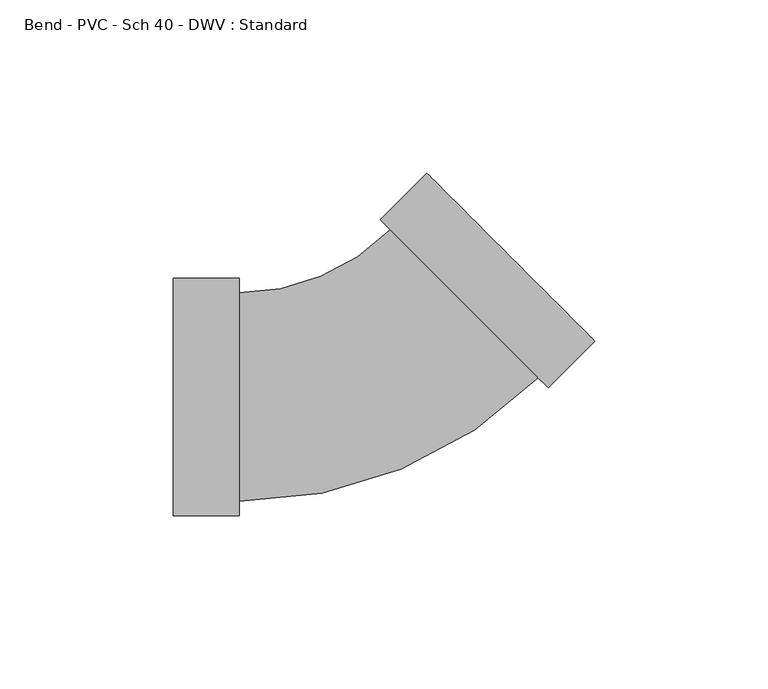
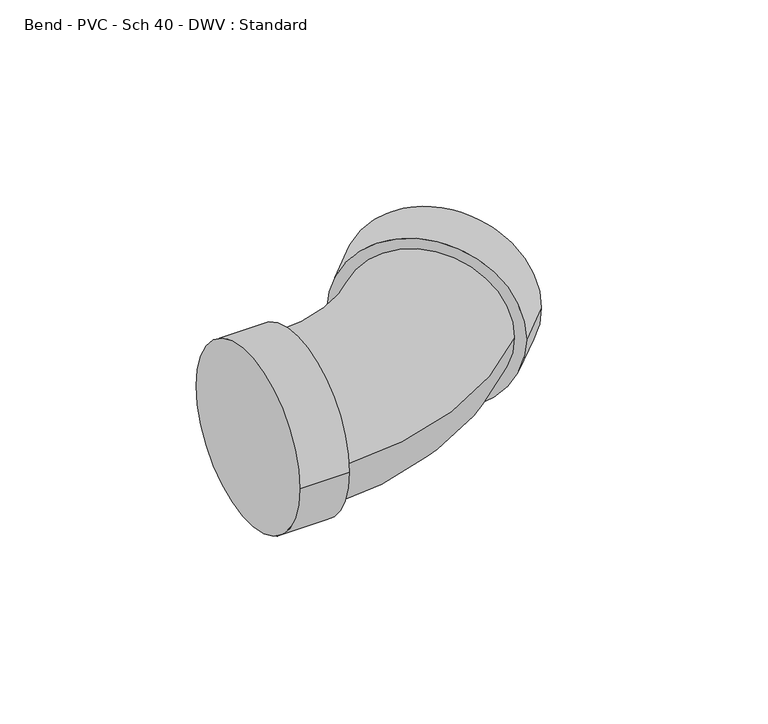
"""IFC4 building model written with IfcOpenShell, lengths in millimetres: pipe fitting geometry, Bend - PVC - Sch 40 - DWV : Standard."""

import ifcopenshell
import ifcopenshell.guid

model = None  # the IFC model being written
_history = None  # IfcOwnerHistory: only IFC2X3 demands one
_inside = {}  # id of a spatial element -> (the spatial element, [elements in it])
_under = {}  # id of a project, library or spatial element -> (it, [spatial elements below it])
_declared = {}  # id of a project -> (the project, [libraries it declares])
_typed = {}  # id of a type object -> (the type object, [elements of that type])
_made_of = {}  # id of a material, layer set ... -> (it, [elements and type objects made of it])


def new_model(schema):
    """Start an empty IFC model of exactly this schema.

    Asked for "IFC4X3", IfcOpenShell would pick the latest addendum, in which some entities
    have other attributes; the version numbers below select the first issue.
    IFC2X3 requires an IfcOwnerHistory on every rooted entity: one is made here for all.
    """
    global model, _history
    if schema == "IFC4X3":
        model = ifcopenshell.file(schema_version=(4, 3, 0, 0))
    else:
        model = ifcopenshell.file(schema=schema)
    _inside.clear()
    _under.clear()
    _declared.clear()
    _typed.clear()
    _made_of.clear()
    _history = None
    if model.schema == "IFC2X3":
        org = make("IfcOrganization", Name="unknown")
        user = make(
            "IfcPersonAndOrganization",
            ThePerson=make("IfcPerson", FamilyName="unknown"),
            TheOrganization=org,
        )
        app = make(
            "IfcApplication",
            ApplicationDeveloper=org,
            Version="unknown",
            ApplicationFullName="unknown",
            ApplicationIdentifier="unknown",
        )
        _history = make(
            "IfcOwnerHistory",
            OwningUser=user,
            OwningApplication=app,
            ChangeAction="ADDED",
            CreationDate=0,
        )
    return model


def make(cls, **values):
    """One entity of the class cls with the attributes given. An attribute that is None is left unset."""
    return model.create_entity(
        cls, **{name: value for name, value in values.items() if value is not None}
    )


def rooted(cls, **values):
    """An entity with a GlobalId (a new one), such as an element, a storey or a relation."""
    return make(cls, GlobalId=ifcopenshell.guid.new(), OwnerHistory=_history, **values)


def si_unit(unit_type, name, prefix=None):
    """IfcSIUnit, for example si_unit("LENGTHUNIT", "METRE", prefix="MILLI")."""
    return make("IfcSIUnit", UnitType=unit_type, Prefix=prefix, Name=name)


def assignment(units):
    """IfcUnitAssignment: the units of a project."""
    return None if units is None else make("IfcUnitAssignment", Units=units)


def point(xyz):
    """IfcCartesianPoint."""
    return None if xyz is None else make("IfcCartesianPoint", Coordinates=xyz)


def direction(xyz):
    """IfcDirection."""
    return None if xyz is None else make("IfcDirection", DirectionRatios=xyz)


def frame(location, z_axis=None, x_axis=None):
    """IfcAxis2Placement3D, a coordinate frame: its origin and axes. An axis left out is left unset."""
    return make(
        "IfcAxis2Placement3D",
        Location=point(location),
        Axis=direction(z_axis),
        RefDirection=direction(x_axis),
    )


def origin():
    """The frame at (0, 0, 0) with its axes left unset."""
    return frame((0.0, 0.0, 0.0))


def place(relative_to, where):
    """IfcLocalPlacement: puts the frame where relative to a parent placement (None: the world)."""
    return make(
        "IfcLocalPlacement", PlacementRelTo=relative_to, RelativePlacement=where
    )


def context(
    kind, dimensions, precision=None, world=None, true_north=None, identifier=None
):
    """IfcGeometricRepresentationContext, for example the 3D "Model" context."""
    return make(
        "IfcGeometricRepresentationContext",
        ContextIdentifier=identifier,
        ContextType=kind,
        CoordinateSpaceDimension=dimensions,
        Precision=precision,
        WorldCoordinateSystem=world,
        TrueNorth=true_north,
    )


def project(units=None, contexts=None):
    """IfcProject with its units and contexts."""
    return rooted(
        "IfcProject",
        Name="project",
        RepresentationContexts=contexts,
        UnitsInContext=assignment(units),
    )


def spatial(cls, under=None, at=None, **own):
    """A site, building, storey or space (cls), placed at a placement, below another one or the project."""
    s = rooted(cls, ObjectPlacement=at, **own)
    if under is not None:
        _under.setdefault(under.id(), (under, []))[1].append(s)
    return s


def circle_curve(where, radius):
    """IfcCircle in the frame where."""
    return make("IfcCircle", Position=where, Radius=radius)


def ellipse_curve(where, semi_axis1, semi_axis2):
    """IfcEllipse in the frame where."""
    return make(
        "IfcEllipse", Position=where, SemiAxis1=semi_axis1, SemiAxis2=semi_axis2
    )


def trimmed(basis, trim1, trim2, sense, master):
    """IfcTrimmedCurve: the piece of a basis curve between two trims."""
    return make(
        "IfcTrimmedCurve",
        BasisCurve=basis,
        Trim1=trim1,
        Trim2=trim2,
        SenseAgreement=sense,
        MasterRepresentation=master,
    )


def shape(context_of_items, identifier, shape_type, items):
    """IfcShapeRepresentation: the items that make up one representation, for example the "Body"."""
    return make(
        "IfcShapeRepresentation",
        ContextOfItems=context_of_items,
        RepresentationIdentifier=identifier,
        RepresentationType=shape_type,
        Items=items,
    )


def source(mapping_origin, context_of_items, identifier, shape_type, items):
    """IfcRepresentationMap: a shape defined once, which mapped items show again and again."""
    return make(
        "IfcRepresentationMap",
        MappingOrigin=mapping_origin,
        MappedRepresentation=shape(context_of_items, identifier, shape_type, items),
    )


def transform(
    local_origin,
    x_axis=None,
    y_axis=None,
    z_axis=None,
    scale=None,
    scale2=None,
    scale3=None,
    uniform=True,
):
    """IfcCartesianTransformationOperator3D, or its non-uniform kind. x_axis, y_axis, z_axis: its Axis1, 2, 3."""
    if uniform:
        return make(
            "IfcCartesianTransformationOperator3D",
            Axis1=direction(x_axis),
            Axis2=direction(y_axis),
            LocalOrigin=point(local_origin),
            Scale=scale,
            Axis3=direction(z_axis),
        )
    return make(
        "IfcCartesianTransformationOperator3DnonUniform",
        Axis1=direction(x_axis),
        Axis2=direction(y_axis),
        LocalOrigin=point(local_origin),
        Scale=scale,
        Axis3=direction(z_axis),
        Scale2=scale2,
        Scale3=scale3,
    )


def mapped(mapping_source, mapping_target):
    """IfcMappedItem: shows the shape of a source again, moved by a transform."""
    return make(
        "IfcMappedItem", MappingSource=mapping_source, MappingTarget=mapping_target
    )


def made_of(thing, what):
    """Note that an element or type object is made of a material, layer set ...; save() writes the relation."""
    if what is not None:
        _made_of.setdefault(what.id(), (what, []))[1].append(thing)
    return thing


def element(
    cls,
    number,
    at=None,
    inside=None,
    cuts=None,
    type_object=None,
    material=None,
    context=None,
    identifier="Body",
    shape_type=None,
    held_by="IfcProductDefinitionShape",
    body=None,
    shapes=None,
    **own,
):
    """One element of the class cls, such as IfcWall. Its Tag is "e" and its number.

    at: its placement. inside: the storey or other place that contains it. cuts: it is an
    opening in that element (IfcRelVoidsElement). A single representation is given by context,
    identifier, shape_type and body (its items); several are given by shapes. held_by: the class
    of the entity that holds the representations. save() writes the other relations.
    """
    e = rooted(cls, Tag="e%d" % number, ObjectPlacement=at, **own)
    if body is not None:
        shapes = [shape(context, identifier, shape_type, body)]
    if shapes is not None:
        e.Representation = make(held_by, Representations=shapes)
    if inside is not None:
        _inside.setdefault(inside.id(), (inside, []))[1].append(e)
    if cuts is not None:
        rooted(
            "IfcRelVoidsElement", RelatingBuildingElement=cuts, RelatedOpeningElement=e
        )
    if type_object is not None:
        _typed.setdefault(type_object.id(), (type_object, []))[1].append(e)
    return made_of(e, material)


def aggregate(whole, parts):
    """IfcRelAggregates: a whole, such as a stair, and the parts it consists of."""
    return rooted("IfcRelAggregates", RelatingObject=whole, RelatedObjects=parts)


def save(model, path):
    """Write the relations noted so far, then the file.

    IfcRelAggregates (storeys below a building ...), IfcRelContainedInSpatialStructure (elements
    in a storey), IfcRelDefinesByType, IfcRelAssociatesMaterial and IfcRelDeclares: one each for
    every whole, place, type object, material and project.
    """
    for whole, parts in _under.values():
        aggregate(whole, parts)
    for where, things in _inside.values():
        rooted(
            "IfcRelContainedInSpatialStructure",
            RelatedElements=things,
            RelatingStructure=where,
        )
    for kind, things in _typed.values():
        rooted("IfcRelDefinesByType", RelatedObjects=things, RelatingType=kind)
    for what, things in _made_of.values():
        rooted("IfcRelAssociatesMaterial", RelatedObjects=things, RelatingMaterial=what)
    for by, libraries in _declared.values():
        rooted("IfcRelDeclares", RelatingContext=by, RelatedDefinitions=libraries)
    model.write(path)


def plane_surface(at):
    """IfcPlane: the flat surface through the origin of the frame at, square to its z axis."""
    return make("IfcPlane", Position=at)


def cylinder_surface(at, radius):
    """IfcCylindricalSurface: all points at the distance radius from the z axis of the frame at."""
    return make("IfcCylindricalSurface", Position=at, Radius=radius)


def revolved_surface(curve, axis_point, axis_direction):
    """IfcSurfaceOfRevolution: the curve turned about the line through axis_point along axis_direction."""
    return make(
        "IfcSurfaceOfRevolution",
        SweptCurve=make("IfcArbitraryOpenProfileDef", ProfileType="CURVE", Curve=curve),
        AxisPosition=make("IfcAxis1Placement", Location=point(axis_point), Axis=direction(axis_direction)),
    )


def advanced_brep(points, edges, surfaces, faces):
    """IfcAdvancedBrep: a solid bounded by faces that lie on surfaces and meet in shared edges.

    An edge is (start, end): straight between two places in points (the first is 0);
    or (start, end, curve); or (start, end, curve, False) where it runs against its curve.
    A face is (place in surfaces, loops), or (place, loops, False) where it looks against
    its surface's normal. A loop lists edges by number (the first is 1), with a minus sign
    where the edge is run from its end to its start. The first loop is the outer one.
    """
    corners = [point(p) for p in points]
    vertices = [make("IfcVertexPoint", VertexGeometry=c) for c in corners]
    made = []
    for start, end, *more in edges:
        made.append(
            make(
                "IfcEdgeCurve",
                EdgeStart=vertices[start],
                EdgeEnd=vertices[end],
                EdgeGeometry=more[0] if more else make("IfcPolyline", Points=[corners[start], corners[end]]),
                SameSense=more[1] if len(more) > 1 else True,
            )
        )
    hull = []
    for where, loops, *sense in faces:
        bounds = []
        for j, loop in enumerate(loops):
            ring = [make("IfcOrientedEdge", EdgeElement=made[abs(k) - 1], Orientation=k > 0) for k in loop]
            bounds.append(
                make(
                    "IfcFaceOuterBound" if j == 0 else "IfcFaceBound",
                    Bound=make("IfcEdgeLoop", EdgeList=ring),
                    Orientation=True,
                )
            )
        hull.append(make("IfcAdvancedFace", Bounds=bounds, FaceSurface=surfaces[where], SameSense=sense[0] if sense else True))
    return make("IfcAdvancedBrep", Outer=make("IfcClosedShell", CfsFaces=hull))


def bend_pvc_sch_40_dwv_standard_797c4d59(model_context):
    return source(origin(), model_context, "Body", "AdvancedBrep", [
        advanced_brep(
        [(-57.15, -34.3154, 0.0), (-57.15, 34.3154, 0.0), (-38.1, -34.3154, 0.0), (-38.1, 34.3154, 0.0), (-38.1, -30.1625, 0.0), (-38.1, 30.1625, 0.0), (5.6148786, 48.2686186, 0.0), (48.2691346, 5.6104415, 0.0), (51.2055433, 2.6737628, 0.0), (2.6784698, 51.2052973, 0.0), (64.6765466, 16.1435278, 0.0), (16.1494731, 64.6750624, 0.0)],
        [
            (0, 1, circle_curve(frame((-57.15, 0.0, 0.0), z_axis=(-1.0, 0.0, 0.0), x_axis=(0.0, 1.0, 0.0)), 34.3154)),
            (1, 0, circle_curve(frame((-57.15, 0.0, 0.0), z_axis=(-1.0, 0.0, 0.0), x_axis=(0.0, 1.0, 0.0)), 34.3154)),
            (2, 3, circle_curve(frame((-38.1, 0.0, 0.0), z_axis=(1.0, 0.0, 0.0), x_axis=(0.0, 1.0, 0.0)), 34.3154)),
            (3, 2, circle_curve(frame((-38.1, 0.0, 0.0), z_axis=(1.0, 0.0, 0.0), x_axis=(0.0, 1.0, 0.0)), 34.3154)),
            (4, 5, circle_curve(frame((-38.1, 0.0, 0.0), z_axis=(-1.0, 0.0, 0.0), x_axis=(0.0, 1.0, 0.0)), 30.1625)),
            (5, 4, circle_curve(frame((-38.1, 0.0, 0.0), z_axis=(-1.0, 0.0, 0.0), x_axis=(0.0, 1.0, 0.0)), 30.1625)),
            (0, 2),
            (3, 1),
            (6, 5, circle_curve(frame((-38.1, 91.9875159, 0.0), z_axis=(0.0, 0.0, -1.0), x_axis=(0.0, -1.0, 0.0)), 61.8250159)),
            (4, 7, circle_curve(frame((-38.1, 91.9875159, 0.0), z_axis=(0.0, 0.0, 1.0), x_axis=(0.0, -1.0, 0.0)), 122.1500159)),
            (7, 6, circle_curve(frame((26.9420066, 26.9395301, 0.0), z_axis=(-0.7071392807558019, -0.707074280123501, 0.0), x_axis=(-0.707074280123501, 0.7071392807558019, 0.0)), 30.1625)),
            (6, 7, circle_curve(frame((26.9420066, 26.9395301, 0.0), z_axis=(-0.7071392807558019, -0.707074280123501, 0.0), x_axis=(-0.707074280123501, 0.7071392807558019, 0.0)), 30.1625)),
            (8, 9, circle_curve(frame((26.9420066, 26.9395301, 0.0), z_axis=(-0.7071392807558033, -0.7070742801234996, 0.0), x_axis=(-0.7070742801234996, 0.7071392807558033, 0.0)), 34.3154)),
            (9, 8, circle_curve(frame((26.9420066, 26.9395301, 0.0), z_axis=(-0.7071392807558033, -0.7070742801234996, 0.0), x_axis=(-0.7070742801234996, 0.7071392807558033, 0.0)), 34.3154)),
            (10, 11, circle_curve(frame((40.4130099, 40.4092951, 0.0), z_axis=(0.7071392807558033, 0.7070742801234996, 0.0), x_axis=(-0.7070742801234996, 0.7071392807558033, 0.0)), 34.3154)),
            (11, 10, circle_curve(frame((40.4130099, 40.4092951, 0.0), z_axis=(0.7071392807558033, 0.7070742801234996, 0.0), x_axis=(-0.7070742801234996, 0.7071392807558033, 0.0)), 34.3154)),
            (8, 10),
            (11, 9),
        ],
        [
            plane_surface(frame((-57.15, 0.0, 0.0), z_axis=(-1.0, 0.0, 0.0), x_axis=(0.0, 0.0, 1.0))),
            plane_surface(frame((-38.1, 0.0, 0.0), z_axis=(1.0, 0.0, 0.0), x_axis=(0.0, 0.0, 1.0))),
            cylinder_surface(frame((-57.15, 0.0, 0.0), z_axis=(-1.0, 0.0, 0.0), x_axis=(0.0, 1.0, 0.0)), 34.3154),
            revolved_surface(trimmed(ellipse_curve(frame((-38.1, 0.0, 0.0), z_axis=(-1.0, 0.0, 0.0), x_axis=(0.0, 1.0, 0.0)), 30.1625, 30.1625), [point((-38.1, -30.1625, 0.0))], [point((-38.1, 30.1625, 0.0))], True, "CARTESIAN"), (-38.1, 91.9875159, 0.0), (0.0, 0.0, 1.0)),
            revolved_surface(trimmed(ellipse_curve(frame((-38.1, 0.0, 0.0), z_axis=(-1.0, 0.0, 0.0), x_axis=(0.0, 1.0, 0.0)), 30.1625, 30.1625), [point((-38.1, 30.1625, 0.0))], [point((-38.1, -30.1625, 0.0))], True, "CARTESIAN"), (-38.1, 91.9875159, 0.0), (0.0, 0.0, 1.0)),
            plane_surface(frame((26.9420066, 26.9395301, 0.0), z_axis=(-0.7071392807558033, -0.7070742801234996, 0.0), x_axis=(0.0, 0.0, 1.0))),
            plane_surface(frame((40.4130099, 40.4092951, 0.0), z_axis=(0.7071392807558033, 0.7070742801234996, 0.0), x_axis=(0.0, 0.0, 1.0))),
            cylinder_surface(frame((26.9420066, 26.9395301, 0.0), z_axis=(-0.7071392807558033, -0.7070742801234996, 0.0), x_axis=(-0.7070742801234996, 0.7071392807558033, 0.0)), 34.3154),
        ],
        [
            (0, [[1, 2]]),
            (1, [[3, 4], [5, 6]]),
            (2, [[-1, 7, -4, 8]]),
            (2, [[-2, -8, -3, -7]]),
            (3, [[9, -5, 10, 11]]),
            (4, [[-9, 12, -10, -6]]),
            (5, [[13, 14], [-11, -12]]),
            (6, [[15, 16]]),
            (7, [[-13, 17, -16, 18]]),
            (7, [[-14, -18, -15, -17]]),
        ],
    ),
    ])


if __name__ == "__main__":
    model = new_model("IFC4")
    model_context = context("Model", 3, world=origin())
    ifc_project = project(units=[si_unit("LENGTHUNIT", "METRE", prefix="MILLI")], contexts=[model_context])
    site = spatial("IfcSite", under=ifc_project)
    building = spatial("IfcBuilding", under=site)
    placement = place(None, origin())
    bend_pvc_sch_40_dwv_standard_shape = bend_pvc_sch_40_dwv_standard_797c4d59(model_context)
    element("IfcPipeFitting", 1, ObjectType="Bend - PVC - Sch 40 - DWV : Standard", at=placement, inside=building, context=model_context, shape_type="MappedRepresentation", body=[
        mapped(bend_pvc_sch_40_dwv_standard_shape, transform((0.0, 0.0, 0.0), x_axis=(1.0, 0.0, 0.0), y_axis=(0.0, 1.0, 0.0), z_axis=(0.0, 0.0, 1.0))),
    ])
    save(model, "model.ifc")
